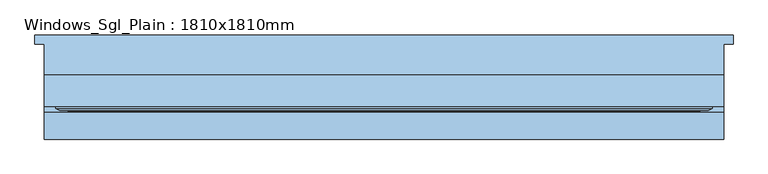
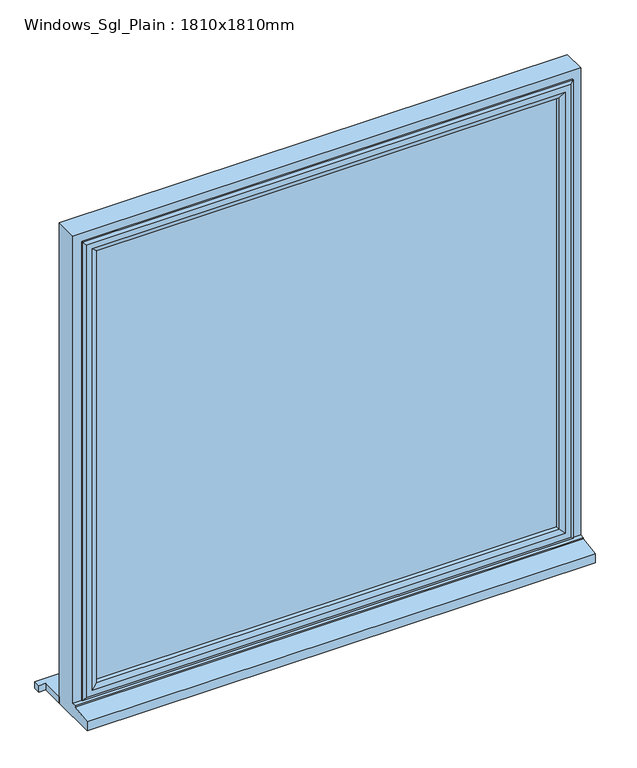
"""IFC4 building model written with IfcOpenShell, lengths in millimetres: window geometry, Windows_Sgl_Plain : 1810x1810mm."""

from ifc_helpers import new_model, si_unit, frame, origin, place, context, project, spatial, polyline, outline, extrude, faceted_brep, source, transform, mapped, element, save


def windows_sgl_plain_1810x1810mm_11d9b991(model_context):
    return source(origin(), model_context, "Body", "SolidModel", [
        extrude(outline(polyline([(-930.0, 124.5434322), (930.0, 124.5434322), (930.0, 99.5434322), (905.0, 99.5434322), (905.0, 16.5434322), (-905.0, 16.5434322), (-905.0, 99.5434322), (-930.0, 99.5434322), (-930.0, 124.5434322)])), frame((0.0, 0.0, 300.0), z_axis=(0.0, 0.0, 1.0), x_axis=(1.0, 0.0, 0.0)), (0.0, 0.0, 1.0), 25.0),
        faceted_brep([(-905.0, 16.5434322, 300.0), (-905.0, 16.5434322, 2110.0), (905.0, 16.5434322, 2110.0), (905.0, 16.5434322, 300.0), (-845.0, 16.5434322, 2050.0), (-845.0, 16.5434322, 375.0), (845.0, 16.5434322, 375.0), (845.0, 16.5434322, 2050.0), (-905.0, -153.9565678, 300.0), (-905.0, -153.9565678, 333.8088847), (-905.0, -81.4565678, 344.7449676), (-905.0, -81.4565678, 349.68767), (-905.0, -66.4565678, 351.0), (-905.0, -66.4565678, 2110.0), (905.0, -66.4565678, 351.0), (905.0, -66.4565678, 2110.0), (-865.0, -66.4565678, 2070.0), (865.0, -66.4565678, 2070.0), (865.0, -66.4565678, 363.0), (-865.0, -66.4565678, 363.0), (-865.0, -1.4565678, 363.0), (-865.0, -1.4565678, 2070.0), (865.0, -1.4565678, 363.0), (865.0, -1.4565678, 2070.0), (-845.0, -1.4565678, 2050.0), (845.0, -1.4565678, 2050.0), (845.0, -1.4565678, 375.0), (-845.0, -1.4565678, 375.0), (905.0, -81.4565678, 349.68767), (905.0, -81.4565678, 344.7449676), (905.0, -153.9565678, 333.8088847), (905.0, -153.9565678, 300.0)], [[[0, 1, 2, 3], [4, 5, 6, 7]], [[0, 8, 9, 10, 11, 12, 13, 1]], [[12, 14, 15, 13], [16, 17, 18, 19]], [[19, 20, 21, 16]], [[21, 20, 22, 23], [24, 25, 26, 27]], [[24, 27, 5, 4]], [[1, 13, 15, 2]], [[16, 21, 23, 17]], [[7, 25, 24, 4]], [[14, 28, 29, 30, 31, 3, 2, 15]], [[17, 23, 22, 18]], [[7, 6, 26, 25]], [[31, 8, 0, 3]], [[30, 9, 8, 31]], [[29, 10, 9, 30]], [[28, 11, 10, 29]], [[14, 12, 11, 28]], [[20, 19, 18, 22]], [[5, 27, 26, 6]]]),
        extrude(outline(polyline([(835.0, -30.4565678), (835.0, -54.4565678), (-835.0, -54.4565678), (-835.0, -30.4565678), (835.0, -30.4565678)])), frame((0.0, 0.0, 393.0), z_axis=(0.0, 0.0, 1.0), x_axis=(1.0, 0.0, 0.0)), (0.0, 0.0, 1.0), 1647.0),
        faceted_brep([(-875.0, -66.4565678, 2080.0), (-875.0, -66.4565678, 353.0), (-875.0, -72.2300705, 353.0), (-875.0, -72.2300705, 2080.0), (-865.0, -1.4565678, 2070.0), (-865.0, -1.4565678, 363.0), (-865.0, -66.4565678, 363.0), (-865.0, -66.4565678, 2070.0), (-825.0, -15.9494677, 2030.0), (-825.0, -15.9494677, 403.0), (-835.1480377, -1.4565678, 392.8519623), (-835.1480377, -1.4565678, 2040.1480377), (-825.0, -30.4565678, 2030.0), (-825.0, -30.4565678, 403.0), (-835.0, -54.4565678, 2040.0), (-835.0, -54.4565678, 393.0), (-835.0, -30.4565678, 393.0), (-835.0, -30.4565678, 2040.0), (-825.0, -72.2300705, 2030.0), (-825.0, -72.2300705, 403.0), (-825.0, -54.4565678, 403.0), (-825.0, -54.4565678, 2030.0), (-842.4457548, -78.0035732, 2047.4457548), (-842.4457548, -78.0035732, 385.5542452), (-864.2153903, -78.0035732, 363.7846097), (-864.2153903, -78.0035732, 2069.2153903), (875.0, -66.4565678, 353.0), (875.0, -72.2300705, 353.0), (865.0, -1.4565678, 363.0), (865.0, -66.4565678, 363.0), (825.0, -15.9494677, 403.0), (835.1480377, -1.4565678, 392.8519623), (825.0, -30.4565678, 403.0), (835.0, -54.4565678, 393.0), (835.0, -30.4565678, 393.0), (825.0, -72.2300705, 403.0), (825.0, -54.4565678, 403.0), (842.4457548, -78.0035732, 385.5542452), (864.2153903, -78.0035732, 363.7846097), (875.0, -66.4565678, 2080.0), (875.0, -72.2300705, 2080.0), (865.0, -1.4565678, 2070.0), (865.0, -66.4565678, 2070.0), (825.0, -15.9494677, 2030.0), (835.1480377, -1.4565678, 2040.1480377), (825.0, -30.4565678, 2030.0), (835.0, -54.4565678, 2040.0), (835.0, -30.4565678, 2040.0), (825.0, -72.2300705, 2030.0), (825.0, -54.4565678, 2030.0), (842.4457548, -78.0035732, 2047.4457548), (864.2153903, -78.0035732, 2069.2153903)], [[[0, 1, 2, 3]], [[4, 5, 6, 7]], [[8, 9, 10, 11]], [[12, 13, 9, 8]], [[14, 15, 16, 17]], [[18, 19, 20, 21]], [[22, 23, 19, 18]], [[3, 2, 24, 25]], [[1, 26, 27, 2]], [[5, 28, 29, 6]], [[9, 30, 31, 10]], [[13, 32, 30, 9]], [[15, 33, 34, 16]], [[19, 35, 36, 20]], [[23, 37, 35, 19]], [[2, 27, 38, 24]], [[26, 39, 40, 27]], [[28, 41, 42, 29]], [[30, 43, 44, 31]], [[32, 45, 43, 30]], [[33, 46, 47, 34]], [[35, 48, 49, 36]], [[37, 50, 48, 35]], [[27, 40, 51, 38]], [[39, 0, 3, 40]], [[1, 0, 39, 26], [7, 6, 29, 42]], [[41, 4, 7, 42]], [[5, 4, 41, 28], [11, 10, 31, 44]], [[43, 8, 11, 44]], [[45, 12, 8, 43]], [[17, 16, 34, 47], [13, 12, 45, 32]], [[46, 14, 17, 47]], [[15, 14, 46, 33], [21, 20, 36, 49]], [[48, 18, 21, 49]], [[50, 22, 18, 48]], [[25, 24, 38, 51], [23, 22, 50, 37]], [[40, 3, 25, 51]]]),
    ])


if __name__ == "__main__":
    model = new_model("IFC4")
    model_context = context("Model", 3, world=origin())
    ifc_project = project(units=[si_unit("LENGTHUNIT", "METRE", prefix="MILLI")], contexts=[model_context])
    site = spatial("IfcSite", under=ifc_project)
    building = spatial("IfcBuilding", under=site)
    placement = place(None, origin())
    windows_sgl_plain_1810x1810mm_shape = windows_sgl_plain_1810x1810mm_11d9b991(model_context)
    element("IfcWindow", 1, ObjectType="Windows_Sgl_Plain : 1810x1810mm", at=placement, inside=building, context=model_context, shape_type="MappedRepresentation", body=[
        mapped(windows_sgl_plain_1810x1810mm_shape, transform((0.0, 0.0, 0.0), x_axis=(1.0, 0.0, 0.0), y_axis=(0.0, 1.0, 0.0), z_axis=(0.0, 0.0, 1.0))),
    ])
    save(model, "model.ifc")
